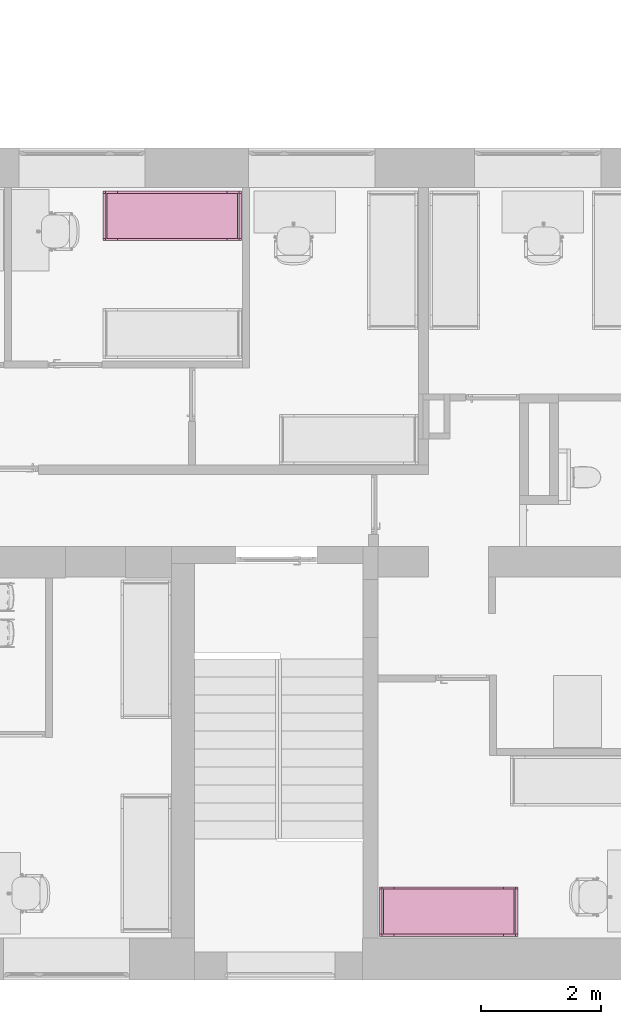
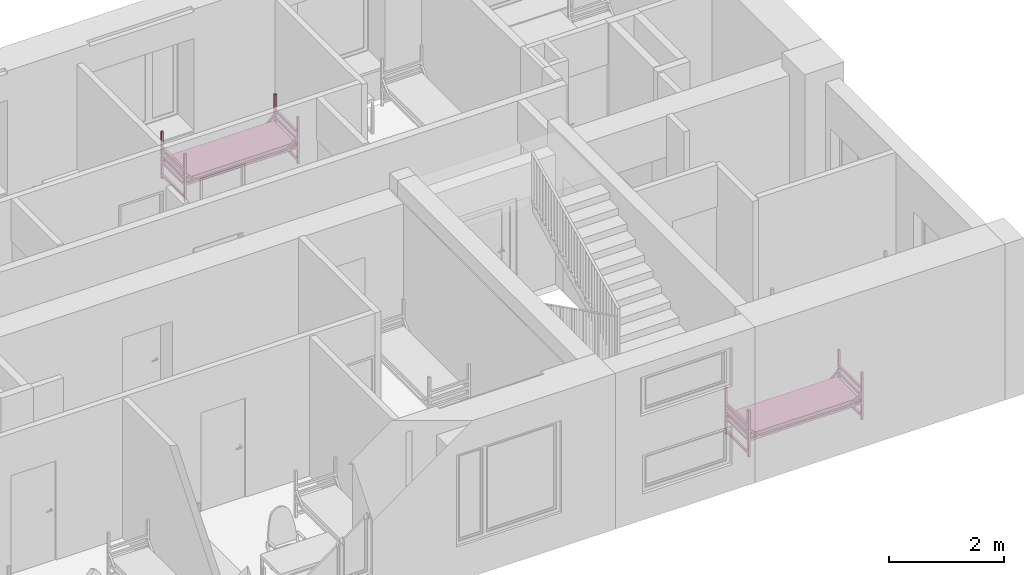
# One storey, part 44 of 48: 2 furnishings.
"""IFC2X3 building model written with IfcOpenShell, lengths in millimetres."""

from ifc_helpers import new_model, entity, si_unit, converted_unit, derived_unit, direction, frame, frame_2d, origin, place, context, subcontext, project, spatial, polyline, circle_curve, parameter, trimmed, segment, composite_curve, rectangle, outline, extrude, source, transform, mapped, material, type_object, type_shapes, element, save


model = new_model("IFC2X3")

# Units and contexts
model_context = context("Model", 3, precision=0.01, world=origin(), true_north=direction((6.12303176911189e-17, 1.0)))
body_context = subcontext(model_context, "Body", "Model", "MODEL_VIEW")
ifc_project = project(units=[si_unit("LENGTHUNIT", "METRE", prefix="MILLI"), si_unit("AREAUNIT", "SQUARE_METRE"), si_unit("VOLUMEUNIT", "CUBIC_METRE"), converted_unit("PLANEANGLEUNIT", "DEGREE", entity("IfcRatioMeasure", 0.0174532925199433), si_unit("PLANEANGLEUNIT", "RADIAN"), dimensions=[0, 0, 0, 0, 0, 0, 0]), si_unit("MASSUNIT", "GRAM", prefix="KILO"), derived_unit("MASSDENSITYUNIT", [(si_unit("MASSUNIT", "GRAM", prefix="KILO"), 1), (si_unit("LENGTHUNIT", "METRE"), -3)]), si_unit("TIMEUNIT", "SECOND"), si_unit("FREQUENCYUNIT", "HERTZ"), si_unit("THERMODYNAMICTEMPERATUREUNIT", "DEGREE_CELSIUS"), derived_unit("THERMALTRANSMITTANCEUNIT", [(si_unit("MASSUNIT", "GRAM", prefix="KILO"), 1), (si_unit("THERMODYNAMICTEMPERATUREUNIT", "KELVIN"), -1), (si_unit("TIMEUNIT", "SECOND"), -3)]), derived_unit("VOLUMETRICFLOWRATEUNIT", [(si_unit("LENGTHUNIT", "METRE"), 3), (si_unit("TIMEUNIT", "SECOND"), -1)]), si_unit("ELECTRICCURRENTUNIT", "AMPERE"), si_unit("ELECTRICVOLTAGEUNIT", "VOLT"), si_unit("POWERUNIT", "WATT"), si_unit("FORCEUNIT", "NEWTON", prefix="KILO"), si_unit("ILLUMINANCEUNIT", "LUX"), si_unit("LUMINOUSFLUXUNIT", "LUMEN"), si_unit("LUMINOUSINTENSITYUNIT", "CANDELA"), derived_unit("USERDEFINED", [(si_unit("MASSUNIT", "GRAM", prefix="KILO"), -1), (si_unit("LENGTHUNIT", "METRE"), -2), (si_unit("TIMEUNIT", "SECOND"), 3), (si_unit("LUMINOUSFLUXUNIT", "LUMEN"), 1)]), derived_unit("LINEARVELOCITYUNIT", [(si_unit("LENGTHUNIT", "METRE"), 1), (si_unit("TIMEUNIT", "SECOND"), -1)]), si_unit("PRESSUREUNIT", "PASCAL"), derived_unit("USERDEFINED", [(si_unit("LENGTHUNIT", "METRE"), -2), (si_unit("MASSUNIT", "GRAM", prefix="KILO"), 1), (si_unit("TIMEUNIT", "SECOND"), -2)]), derived_unit("LINEARFORCEUNIT", [(si_unit("MASSUNIT", "GRAM", prefix="KILO"), 1), (si_unit("LENGTHUNIT", "METRE"), 1), (si_unit("TIMEUNIT", "SECOND"), -2), (si_unit("LENGTHUNIT", "METRE"), -1)]), derived_unit("PLANARFORCEUNIT", [(si_unit("MASSUNIT", "GRAM", prefix="KILO"), 1), (si_unit("LENGTHUNIT", "METRE"), 1), (si_unit("TIMEUNIT", "SECOND"), -2), (si_unit("LENGTHUNIT", "METRE"), -2)])], contexts=[model_context])

# Site, building, storey, space
site_placement = place(None, origin())
site = spatial("IfcSite", under=ifc_project, at=site_placement, Name="Default", CompositionType="ELEMENT")
building_placement = place(site_placement, origin())
building = spatial("IfcBuilding", under=site, at=building_placement, Name="SMA ARH", CompositionType="ELEMENT")
storey_placement = place(building_placement, frame((0.0, 0.0, 3300.0)))
storey = spatial("IfcBuildingStorey", under=building, at=storey_placement, Name="2 Korrus", CompositionType="ELEMENT", Elevation=3299.99999999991)
space_1_placement = place(storey_placement, origin())
space_1 = spatial("IfcSpace", under=storey, at=space_1_placement, Name="2-30", CompositionType="ELEMENT", InteriorOrExteriorSpace="INTERNAL")

# Furnishing
ifc_material = material(Name="Madrats")
furniture_type = type_object("IfcFurnitureType", Name="Kasarmu voodi ühekordne 2308x830:Kasarmu voodi ühekordne 2308x830", material=ifc_material)
shared_shape = source(origin(), body_context, "Body", "SweptSolid", [
    extrude(rectangle(XDim=39.9999999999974, YDim=750.000000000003, at=frame_2d((-1.35003119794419e-13, -2.8421709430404e-14), x_axis=(1.0, 0.0))), frame((1.68638457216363, -1226.7969571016, 55.0), z_axis=(0.0, 0.0, 1.0), x_axis=(0.0, -1.0, 0.0)), (0.0, 0.0, 1.0), 49.9999999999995),
    extrude(rectangle(XDim=39.9999999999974, YDim=750.000000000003, at=frame_2d((-1.35003119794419e-13, -2.8421709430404e-14), x_axis=(1.0, 0.0))), frame((1.68638457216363, -1226.7969571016, 325.0), z_axis=(0.0, 0.0, 1.0), x_axis=(0.0, -1.0, 0.0)), (0.0, 0.0, 1.0), 49.9999999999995),
    extrude(rectangle(XDim=39.9999999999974, YDim=750.000000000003, at=frame_2d((-1.35003119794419e-13, -2.8421709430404e-14), x_axis=(1.0, 0.0))), frame((1.68638457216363, -1226.7969571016, 475.0), z_axis=(0.0, 0.0, 1.0), x_axis=(0.0, -1.0, 0.0)), (0.0, 0.0, 1.0), 49.9999999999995),
    extrude(rectangle(XDim=39.9999999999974, YDim=750.000000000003, at=frame_2d((-1.35003119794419e-13, -2.8421709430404e-14), x_axis=(1.0, 0.0))), frame((1.68638457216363, -1226.7969571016, 625.0), z_axis=(0.0, 0.0, 1.0), x_axis=(0.0, -1.0, 0.0)), (0.0, 0.0, 1.0), 50.0000000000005),
    extrude(rectangle(XDim=39.9999999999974, YDim=750.000000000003, at=frame_2d((1.35003119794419e-13, -2.8421709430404e-14), x_axis=(1.0, 0.0))), frame((1.68638457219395, 1041.2030428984, 55.0), z_axis=(0.0, 0.0, 1.0), x_axis=(0.0, -1.0, 0.0)), (0.0, 0.0, 1.0), 50.0000000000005),
    extrude(rectangle(XDim=39.9999999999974, YDim=750.000000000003, at=frame_2d((1.35003119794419e-13, -2.8421709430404e-14), x_axis=(1.0, 0.0))), frame((1.68638457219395, 1041.2030428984, 325.0), z_axis=(0.0, 0.0, 1.0), x_axis=(0.0, -1.0, 0.0)), (0.0, 0.0, 1.0), 50.0000000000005),
    extrude(rectangle(XDim=39.9999999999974, YDim=750.000000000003, at=frame_2d((1.35003119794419e-13, -2.8421709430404e-14), x_axis=(1.0, 0.0))), frame((1.68638457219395, 1041.2030428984, 475.0), z_axis=(0.0, 0.0, 1.0), x_axis=(0.0, -1.0, 0.0)), (0.0, 0.0, 1.0), 50.0000000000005),
    extrude(rectangle(XDim=39.9999999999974, YDim=750.000000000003, at=frame_2d((1.35003119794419e-13, -2.8421709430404e-14), x_axis=(1.0, 0.0))), frame((1.68638457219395, 1041.2030428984, 625.0), z_axis=(0.0, 0.0, 1.0), x_axis=(0.0, -1.0, 0.0)), (0.0, 0.0, 1.0), 49.9999999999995),
    extrude(outline(composite_curve([segment(trimmed(circle_curve(frame_2d((1085.0, -40.0), x_axis=(1.0, 0.0)), 10.0), [parameter(270.0)], [parameter(0.0)], True, "PARAMETER"), True, "CONTINUOUS"), segment(polyline([(1095.0, -40.0), (1095.0, 40.0)]), True, "CONTINUOUS"), segment(trimmed(circle_curve(frame_2d((1085.0, 40.0), x_axis=(1.0, 0.0)), 10.0), [parameter(0.0)], [parameter(90.0000000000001)], True, "PARAMETER"), True, "CONTINUOUS"), segment(polyline([(1085.0, 50.0), (-1085.0, 50.0)]), True, "CONTINUOUS"), segment(trimmed(circle_curve(frame_2d((-1085.0, 40.0), x_axis=(1.0, 0.0)), 10.0), [parameter(90.0000000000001)], [parameter(180.0)], True, "PARAMETER"), True, "CONTINUOUS"), segment(polyline([(-1095.0, 40.0), (-1095.0, -40.0)]), True, "CONTINUOUS"), segment(trimmed(circle_curve(frame_2d((-1085.0, -40.0), x_axis=(1.0, 0.0)), 10.0), [parameter(180.0)], [parameter(270.0)], True, "PARAMETER"), True, "CONTINUOUS"), segment(polyline([(-1085.0, -50.0), (1085.0, -50.0)]), True, "CONTINUOUS")], self_intersect=False)), frame((-373.313615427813, -92.7969571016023, 405.0), z_axis=(1.0, 0.0, 0.0), x_axis=(0.0, -1.0, 0.0)), (0.0, 0.0, 1.0), 750.000000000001),
    extrude(outline(polyline([(-1114.0, -100.0), (1114.0, -100.0), (1114.0, -50.0), (961.59199141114, -50.0), (1114.0, 100.0), (1114.0, 150.0), (910.789321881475, -50.0), (-910.789321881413, -50.0), (-1114.0, 150.0), (-1114.0, 100.0), (-961.591991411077, -50.0), (-1114.0, -50.0), (-1114.0, -100.0)])), frame((-413.313615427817, -92.7969571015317, 430.0), z_axis=(1.0, 0.0, 0.0), x_axis=(0.0, 1.0, 0.0)), (0.0, 0.0, 1.0), 39.9999999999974),
    extrude(outline(polyline([(-1114.0, -100.0), (1114.0, -100.0), (1114.0, -50.0), (961.591991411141, -50.0), (1114.0, 100.0), (1114.0, 150.0), (910.789321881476, -50.0), (-910.789321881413, -50.0), (-1114.0, 150.0), (-1114.0, 100.0), (-961.591991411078, -50.0), (-1114.0, -50.0), (-1114.0, -100.0)])), frame((376.686384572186, -92.796957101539, 430.0), z_axis=(1.0, 0.0, 0.0), x_axis=(0.0, 1.0, 0.0)), (0.0, 0.0, 1.0), 39.9999999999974),
    extrude(rectangle(XDim=39.9999999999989, YDim=39.9999999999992, at=frame_2d((-6.75015598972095e-14, 0.0), x_axis=(1.0, 0.0))), frame((396.686384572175, -1226.79695710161, 0.0), z_axis=(0.0, 0.0, 1.0), x_axis=(0.0, 1.0, 0.0)), (0.0, 0.0, 1.0), 995.0),
    extrude(rectangle(XDim=39.9999999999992, YDim=39.9999999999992, at=frame_2d((-1.35003119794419e-13, 0.0), x_axis=(1.0, 0.0))), frame((396.686384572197, 1041.20304289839, 0.0), z_axis=(0.0, 0.0, 1.0), x_axis=(0.0, 1.0, 0.0)), (0.0, 0.0, 1.0), 995.0),
    extrude(rectangle(XDim=40.0000000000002, YDim=39.9999999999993, at=frame_2d((-1.35003119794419e-13, 0.0), x_axis=(1.0, 0.0))), frame((-393.313615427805, 1041.2030428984, 0.0), z_axis=(0.0, 0.0, 1.0), x_axis=(0.0, 1.0, 0.0)), (0.0, 0.0, 1.0), 995.0),
    extrude(rectangle(XDim=39.9999999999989, YDim=39.9999999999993, at=frame_2d((-6.75015598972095e-14, 0.0), x_axis=(1.0, 0.0))), frame((-393.313615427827, -1226.7969571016, 0.0), z_axis=(0.0, 0.0, 1.0), x_axis=(0.0, 1.0, 0.0)), (0.0, 0.0, 1.0), 995.0),
])
type_shapes(furniture_type, [shared_shape])
furnishing_1_placement = place(space_1_placement, frame((30348.2030428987, 12030.0, 0.0), z_axis=(0.0, 0.0, 1.0), x_axis=(0.0, 1.0, 0.0)))
element("IfcFurnishingElement", 1, at=furnishing_1_placement, inside=space_1, type_object=furniture_type, material=ifc_material, Name="Kasarmu voodi ühekordne 2308x830:Kasarmu voodi ühekordne 2308x830", ObjectType="Kasarmu voodi ühekordne 2308x830:Kasarmu voodi ühekordne 2308x830", context=body_context, shape_type="MappedRepresentation", body=[
    mapped(shared_shape, transform((0.0, 0.0, 0.0), scale=1.0)),
])

# Space
space_2_placement = place(storey_placement, origin())
space_2 = spatial("IfcSpace", under=storey, at=space_2_placement, Name="2-1", CompositionType="ELEMENT", InteriorOrExteriorSpace="INTERNAL")

# Furnishing
furnishing_2_placement = place(space_2_placement, frame((35139.0, 440.0, 0.0), z_axis=(0.0, 0.0, 1.0), x_axis=(0.0, -1.0, 0.0)))
element("IfcFurnishingElement", 2, at=furnishing_2_placement, inside=space_2, type_object=furniture_type, material=ifc_material, Name="Kasarmu voodi ühekordne 2308x830:Kasarmu voodi ühekordne 2308x830", ObjectType="Kasarmu voodi ühekordne 2308x830:Kasarmu voodi ühekordne 2308x830", context=body_context, shape_type="MappedRepresentation", body=[
    mapped(shared_shape, transform((0.0, 0.0, 0.0), scale=1.0)),
])

save(model, "model.ifc")
